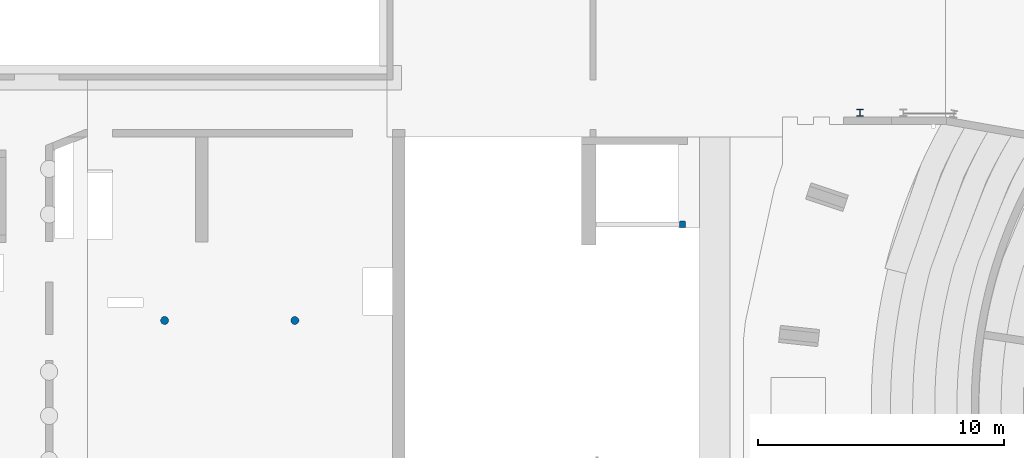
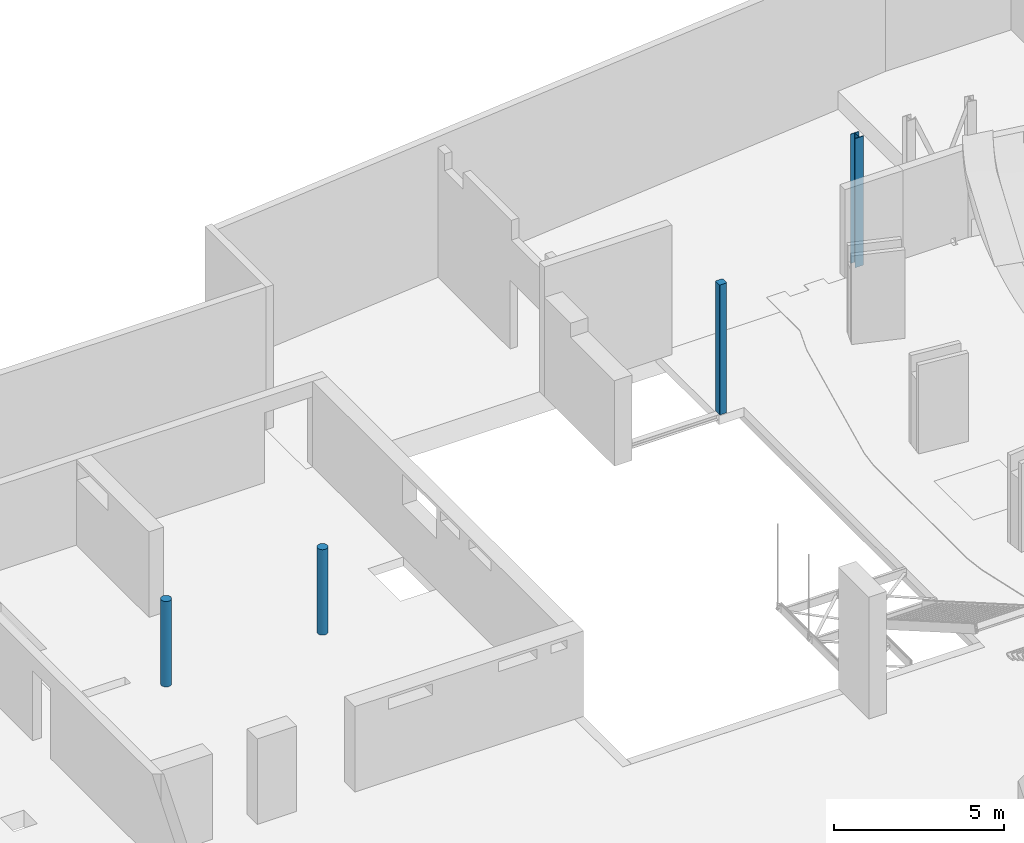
# One storey, part 5 of 34: 4 columns.
"""IFC2X3 building model written with IfcOpenShell, lengths in millimetres."""

from ifc_helpers import new_model, entity, si_unit, converted_unit, derived_unit, direction, frame, frame_2d, origin, origin_2d_with_axis, place, context, subcontext, project, spatial, polyline, circle_curve, parameter, trimmed, segment, composite_curve, circle, hollow_circle, outline, extrude, source, transform, mapped, material, material_list, type_object, type_shapes, element, save


model = new_model("IFC2X3")

# Units and contexts
model_context = context("Model", 3, precision=0.01, world=origin(), true_north=direction((6.12303176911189e-17, 1.0)))
body_context = subcontext(model_context, "Body", "Model", "MODEL_VIEW")
ifc_project = project(units=[si_unit("LENGTHUNIT", "METRE", prefix="MILLI"), si_unit("AREAUNIT", "SQUARE_METRE", prefix="MILLI"), si_unit("VOLUMEUNIT", "CUBIC_METRE"), converted_unit("PLANEANGLEUNIT", "DEGREE", entity("IfcRatioMeasure", 0.0174532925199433), si_unit("PLANEANGLEUNIT", "RADIAN"), dimensions=[0, 0, 0, 0, 0, 0, 0]), si_unit("MASSUNIT", "GRAM", prefix="KILO"), derived_unit("MASSDENSITYUNIT", [(si_unit("MASSUNIT", "GRAM", prefix="KILO"), 1), (si_unit("LENGTHUNIT", "METRE"), -3)]), derived_unit("MOMENTOFINERTIAUNIT", [(si_unit("LENGTHUNIT", "METRE"), 4)]), si_unit("TIMEUNIT", "SECOND"), si_unit("FREQUENCYUNIT", "HERTZ"), si_unit("THERMODYNAMICTEMPERATUREUNIT", "DEGREE_CELSIUS"), derived_unit("THERMALTRANSMITTANCEUNIT", [(si_unit("MASSUNIT", "GRAM", prefix="KILO"), 1), (si_unit("THERMODYNAMICTEMPERATUREUNIT", "KELVIN"), -1), (si_unit("TIMEUNIT", "SECOND"), -3)]), derived_unit("VOLUMETRICFLOWRATEUNIT", [(si_unit("LENGTHUNIT", "METRE"), 3), (si_unit("TIMEUNIT", "SECOND"), -1)]), si_unit("ELECTRICCURRENTUNIT", "AMPERE"), si_unit("ELECTRICVOLTAGEUNIT", "VOLT"), si_unit("POWERUNIT", "WATT"), si_unit("FORCEUNIT", "NEWTON", prefix="KILO"), si_unit("ILLUMINANCEUNIT", "LUX"), si_unit("LUMINOUSFLUXUNIT", "LUMEN"), si_unit("LUMINOUSINTENSITYUNIT", "CANDELA"), derived_unit("USERDEFINED", [(si_unit("MASSUNIT", "GRAM", prefix="KILO"), -1), (si_unit("LENGTHUNIT", "METRE"), -2), (si_unit("TIMEUNIT", "SECOND"), 3), (si_unit("LUMINOUSFLUXUNIT", "LUMEN"), 1)]), derived_unit("LINEARVELOCITYUNIT", [(si_unit("LENGTHUNIT", "METRE"), 1), (si_unit("TIMEUNIT", "SECOND"), -1)]), si_unit("PRESSUREUNIT", "PASCAL"), derived_unit("USERDEFINED", [(si_unit("LENGTHUNIT", "METRE"), -2), (si_unit("MASSUNIT", "GRAM", prefix="KILO"), 1), (si_unit("TIMEUNIT", "SECOND"), -2)]), derived_unit("LINEARFORCEUNIT", [(si_unit("MASSUNIT", "GRAM", prefix="KILO"), 1), (si_unit("LENGTHUNIT", "METRE"), 1), (si_unit("TIMEUNIT", "SECOND"), -2), (si_unit("LENGTHUNIT", "METRE"), -1)]), derived_unit("PLANARFORCEUNIT", [(si_unit("MASSUNIT", "GRAM", prefix="KILO"), 1), (si_unit("LENGTHUNIT", "METRE"), 1), (si_unit("TIMEUNIT", "SECOND"), -2), (si_unit("LENGTHUNIT", "METRE"), -2)])], contexts=[model_context])

# Site, building, storey
site_placement = place(None, origin())
site = spatial("IfcSite", under=ifc_project, at=site_placement, Name="Theater aan de Parade", CompositionType="ELEMENT")
building_placement = place(site_placement, origin())
building = spatial("IfcBuilding", under=site, at=building_placement, Name="Theater aan de Parade", CompositionType="ELEMENT")
storey_placement = place(building_placement, frame((0.0, 0.0, 3.49116848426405e-09)))
storey = spatial("IfcBuildingStorey", under=building, at=storey_placement, Name="00 begane grond", CompositionType="ELEMENT", Elevation=3.49116848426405e-09)

# Columns
ifc_material_1 = material(Name="00_PBT_MAT_staal_S355")
column_type_1 = type_object("IfcColumnType", Name="28_PBT_SC_staal_H-profiel:S355_HE280B", PredefinedType="COLUMN", material=ifc_material_1)
shared_shape_1 = source(origin(), body_context, "Body", "SweptSolid", [
    extrude(outline(composite_curve([segment(polyline([(122.0, -140.0), (140.0, -140.0)]), True, "CONTINUOUS"), segment(polyline([(140.0, -140.0), (140.0, 140.0)]), True, "CONTINUOUS"), segment(polyline([(140.0, 140.0), (122.0, 140.0)]), True, "CONTINUOUS"), segment(polyline([(122.0, 140.0), (122.0, 29.25)]), True, "CONTINUOUS"), segment(trimmed(circle_curve(frame_2d((98.0, 29.2500000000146), x_axis=(1.0, 0.0)), 24.0000000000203), [parameter(270.000000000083)], [parameter(0.0)], True, "PARAMETER"), False, "CONTINUOUS"), segment(polyline([(98.0, 5.25), (-98.0, 5.25)]), True, "CONTINUOUS"), segment(trimmed(circle_curve(frame_2d((-98.0, 29.2500000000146), x_axis=(0.0, -1.0)), 24.0000000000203), [parameter(270.000000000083)], [parameter(0.0)], True, "PARAMETER"), False, "CONTINUOUS"), segment(polyline([(-122.0, 29.2500000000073), (-122.0, 140.0)]), True, "CONTINUOUS"), segment(polyline([(-122.0, 140.0), (-140.0, 140.0)]), True, "CONTINUOUS"), segment(polyline([(-140.0, 140.0), (-140.0, -140.0)]), True, "CONTINUOUS"), segment(polyline([(-140.0, -140.0), (-122.0, -140.0)]), True, "CONTINUOUS"), segment(polyline([(-122.0, -140.0), (-122.0, -29.25)]), True, "CONTINUOUS"), segment(trimmed(circle_curve(frame_2d((-98.0, -29.2500000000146), x_axis=(-1.0, 0.0)), 24.0000000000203), [parameter(270.000000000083)], [parameter(0.0)], True, "PARAMETER"), False, "CONTINUOUS"), segment(polyline([(-98.0, -5.24999999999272), (98.0, -5.24999999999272)]), True, "CONTINUOUS"), segment(trimmed(circle_curve(frame_2d((98.0, -29.2500000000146), x_axis=(0.0, 1.0)), 24.0000000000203), [parameter(270.000000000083)], [parameter(0.0)], True, "PARAMETER"), False, "CONTINUOUS"), segment(polyline([(122.0, -29.25), (122.0, -140.0)]), True, "CONTINUOUS")], self_intersect=False)), frame((48186.4713059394, 44395.0, -90.0), z_axis=(0.0, 0.0, 1.0), x_axis=(0.0, -1.0, 0.0)), (0.0, 0.0, 1.0), 4629.99999999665),
])
type_shapes(column_type_1, [shared_shape_1])
column_1_placement = place(storey_placement, frame((0.0, 0.0, -3.49116848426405e-09)))
element("IfcColumn", 1, at=column_1_placement, inside=storey, type_object=column_type_1, material=ifc_material_1, Name="28_PBT_SC_staal_H-profiel:S355_HE280B", ObjectType="28_PBT_SC_staal_H-profiel:S355_HE280B", context=body_context, shape_type="MappedRepresentation", body=[
    mapped(shared_shape_1, transform((0.0, 0.0, 0.0), scale=1.0)),
])
ifc_material_2 = material(Name="00_PBT_MAT_beton t.p.g._C40/50")
ifc_material_list_1 = material_list([ifc_material_2, ifc_material_1])
ifc_material_list_2 = material_list([ifc_material_2, ifc_material_1])
column_type_2 = type_object("IfcColumnType", Name="28_PBT_SC_staal_koker:S355_K250x250x20_GB_C40/50", PredefinedType="COLUMN", material=ifc_material_list_2)
shared_shape_2 = source(origin(), body_context, "Body", "SweptSolid", [
    extrude(outline(composite_curve([segment(polyline([(-85.0, -105.0), (85.0, -105.0)]), True, "CONTINUOUS"), segment(trimmed(circle_curve(frame_2d((85.0, -85.0), x_axis=(-1.0, 0.0)), 20.0), [parameter(90.0000000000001)], [parameter(180.0)], True, "PARAMETER"), True, "CONTINUOUS"), segment(polyline([(105.0, -85.0), (105.0, 85.0)]), True, "CONTINUOUS"), segment(trimmed(circle_curve(frame_2d((85.0, 85.0), x_axis=(-1.0, 0.0)), 20.0), [parameter(180.0)], [parameter(269.999999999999)], True, "PARAMETER"), True, "CONTINUOUS"), segment(polyline([(85.0, 105.0), (-85.0, 105.0)]), True, "CONTINUOUS"), segment(trimmed(circle_curve(frame_2d((-85.0, 85.0), x_axis=(-1.0, 0.0)), 20.0), [parameter(270.0)], [parameter(1.01777749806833e-13)], True, "PARAMETER"), True, "CONTINUOUS"), segment(polyline([(-105.0, 85.0), (-105.0, -85.0)]), True, "CONTINUOUS"), segment(trimmed(circle_curve(frame_2d((-85.0, -85.0), x_axis=(-1.0, 0.0)), 20.0), [parameter(0.0)], [parameter(90.0000000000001)], True, "PARAMETER"), True, "CONTINUOUS")], self_intersect=False)), frame((40963.8581275, 39850.0, -90.0)), (0.0, 0.0, 1.0), 4649.99999999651),
    extrude(outline(composite_curve([segment(trimmed(circle_curve(frame_2d((-100.0, -100.0), x_axis=(1.0, 0.0)), 25.0), [parameter(180.0)], [parameter(270.0)], True, "PARAMETER"), True, "CONTINUOUS"), segment(polyline([(-100.0, -125.0), (100.0, -125.0)]), True, "CONTINUOUS"), segment(trimmed(circle_curve(frame_2d((100.0, -100.0), x_axis=(1.0, 0.0)), 25.0), [parameter(270.0)], [parameter(0.0)], True, "PARAMETER"), True, "CONTINUOUS"), segment(polyline([(125.0, -100.0), (125.0, 100.0)]), True, "CONTINUOUS"), segment(trimmed(circle_curve(frame_2d((100.0, 100.0), x_axis=(1.0, 0.0)), 25.0), [parameter(3.56222124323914e-13)], [parameter(90.0000000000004)], True, "PARAMETER"), True, "CONTINUOUS"), segment(polyline([(100.0, 125.0), (-100.0, 125.0)]), True, "CONTINUOUS"), segment(trimmed(circle_curve(frame_2d((-100.0, 100.0), x_axis=(1.0, 0.0)), 25.0), [parameter(90.0)], [parameter(180.0)], True, "PARAMETER"), True, "CONTINUOUS"), segment(polyline([(-125.0, 100.0), (-125.0, -100.0)]), True, "CONTINUOUS")], self_intersect=False), holes=[composite_curve([segment(trimmed(circle_curve(frame_2d((85.0, 85.0), x_axis=(1.0, 0.0)), 20.0), [parameter(0.0)], [parameter(90.0000000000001)], True, "PARAMETER"), False, "CONTINUOUS"), segment(polyline([(105.0, 85.0), (105.0, -85.0)]), True, "CONTINUOUS"), segment(trimmed(circle_curve(frame_2d((85.0, -85.0), x_axis=(1.0, 0.0)), 20.0), [parameter(270.0)], [parameter(360.0)], True, "PARAMETER"), False, "CONTINUOUS"), segment(polyline([(85.0, -105.0), (-85.0, -105.0)]), True, "CONTINUOUS"), segment(trimmed(circle_curve(frame_2d((-85.0, -85.0), x_axis=(1.0, 0.0)), 20.0), [parameter(180.0)], [parameter(270.0)], True, "PARAMETER"), False, "CONTINUOUS"), segment(polyline([(-105.0, -85.0), (-105.0, 85.0)]), True, "CONTINUOUS"), segment(trimmed(circle_curve(frame_2d((-85.0, 85.0), x_axis=(1.0, 0.0)), 20.0), [parameter(89.9999999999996)], [parameter(180.0)], True, "PARAMETER"), False, "CONTINUOUS"), segment(polyline([(-85.0, 105.0), (85.0, 105.0)]), True, "CONTINUOUS")], self_intersect=False)]), frame((40963.8581275, 39850.0, -90.0)), (0.0, 0.0, 1.0), 4649.99999999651),
])
type_shapes(column_type_2, [shared_shape_2])
column_2_placement = place(storey_placement, frame((0.0, 0.0, -3.49116848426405e-09)))
element("IfcColumn", 2, at=column_2_placement, inside=storey, type_object=column_type_2, material=ifc_material_list_1, Name="28_PBT_SC_staal_koker:S355_K250x250x20_GB_C40/50", ObjectType="28_PBT_SC_staal_koker:S355_K250x250x20_GB_C40/50", context=body_context, shape_type="MappedRepresentation", body=[
    mapped(shared_shape_2, transform((0.0, 0.0, 0.0), scale=1.0)),
])
ifc_material_list_3 = material_list([ifc_material_2, ifc_material_1])
ifc_material_list_4 = material_list([ifc_material_2, ifc_material_1])
column_type_3 = type_object("IfcColumnType", Name="28_PBT_SC_staal_buis:S355_B323.9x10_GB_C40/50", PredefinedType="COLUMN", material=ifc_material_list_4)
shared_shape_3 = source(origin(), body_context, "Body", "SweptSolid", [
    extrude(circle(Radius=151.95, at=origin_2d_with_axis()), frame((25200.0, 35938.0, -90.0)), (0.0, 0.0, 1.0), 3059.99999999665),
    extrude(hollow_circle(Radius=161.95, WallThickness=9.99999999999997, at=origin_2d_with_axis()), frame((25200.0, 35938.0, -90.0), z_axis=(0.0, 0.0, 1.0), x_axis=(-1.0, 0.0, 0.0)), (0.0, 0.0, 1.0), 3059.99999999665),
])
type_shapes(column_type_3, [shared_shape_3])
column_3_placement = place(storey_placement, frame((0.0, 0.0, -3.49116848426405e-09)))
element("IfcColumn", 3, at=column_3_placement, inside=storey, type_object=column_type_3, material=ifc_material_list_3, Name="28_PBT_SC_staal_buis:S355_B323.9x10_GB_C40/50", ObjectType="28_PBT_SC_staal_buis:S355_B323.9x10_GB_C40/50", context=body_context, shape_type="MappedRepresentation", body=[
    mapped(shared_shape_3, transform((0.0, 0.0, 0.0), scale=1.0)),
])
ifc_material_list_5 = material_list([ifc_material_2, ifc_material_1])
ifc_material_list_6 = material_list([ifc_material_2, ifc_material_1])
column_type_4 = type_object("IfcColumnType", Name="28_PBT_SC_staal_buis:S355_B323.9x10_GB_C40/50", PredefinedType="COLUMN", material=ifc_material_list_6)
shared_shape_4 = source(origin(), body_context, "Body", "SweptSolid", [
    extrude(circle(Radius=151.95, at=origin_2d_with_axis()), frame((19900.0, 35938.0, -90.0)), (0.0, 0.0, 1.0), 3059.99999999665),
    extrude(hollow_circle(Radius=161.95, WallThickness=9.99999999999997, at=origin_2d_with_axis()), frame((19900.0, 35938.0, -90.0), z_axis=(0.0, 0.0, 1.0), x_axis=(-1.0, 0.0, 0.0)), (0.0, 0.0, 1.0), 3059.99999999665),
])
type_shapes(column_type_4, [shared_shape_4])
column_4_placement = place(storey_placement, frame((0.0, 0.0, -3.49116848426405e-09)))
element("IfcColumn", 4, at=column_4_placement, inside=storey, type_object=column_type_4, material=ifc_material_list_5, Name="28_PBT_SC_staal_buis:S355_B323.9x10_GB_C40/50", ObjectType="28_PBT_SC_staal_buis:S355_B323.9x10_GB_C40/50", context=body_context, shape_type="MappedRepresentation", body=[
    mapped(shared_shape_4, transform((0.0, 0.0, 0.0), scale=1.0)),
])

save(model, "model.ifc")
